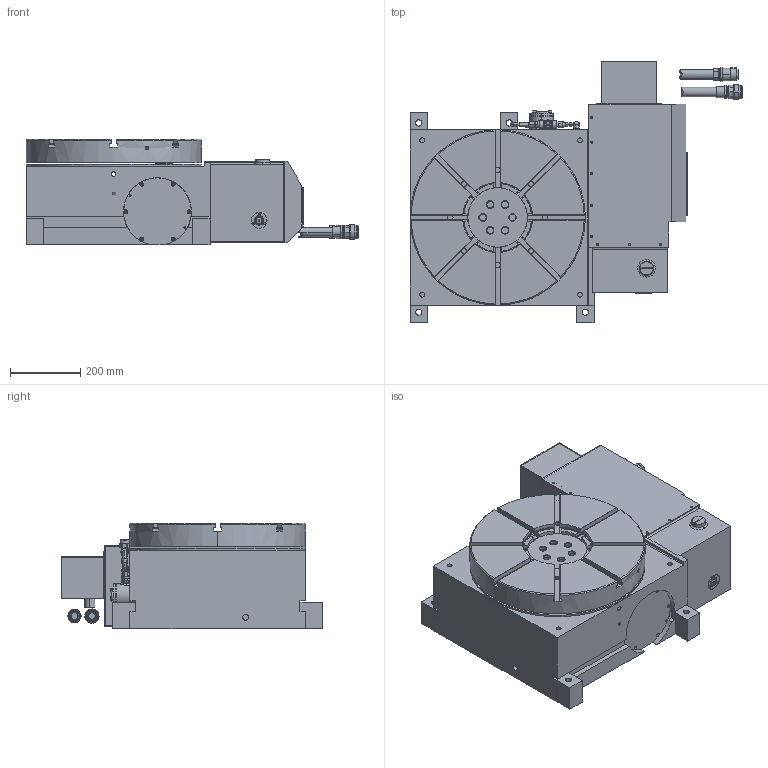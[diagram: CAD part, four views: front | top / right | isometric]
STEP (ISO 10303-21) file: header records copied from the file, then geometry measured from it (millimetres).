
FILE_DESCRIPTION (( 'STEP AP203' ), '1' );
FILE_NAME ('1519463 MT500R-1-08.STEP', '2020-12-05T05:34:31', ( '' ), ( '' ), 'SwSTEP 2.0', 'SolidWorks 2019', '' );
FILE_SCHEMA (( 'CONFIG_CONTROL_DESIGN' ));
Length unit declared in the file: millimetre
Products named in the file (1): 1519463 MT500R-1-08
Bounding box: 947.07 x 745.9 x 302 mm (x, y, z)
Surface area: 2225326.7 mm2 (no closed solid volume)
Topology: 0 solids, 86 shells, 1143 faces, 3629 edges, 2496 vertices
Faces by surface type: cylinder 479, plane 462, cone 146, torus 50, bspline 4, sphere 2
Entity records: 42617 total; most frequent: CARTESIAN_POINT 10205, DIRECTION 7128, ORIENTED_EDGE 5936, EDGE_CURVE 3625, AXIS2_PLACEMENT_3D 2716, VERTEX_POINT 2494, LINE 1696, VECTOR 1696
